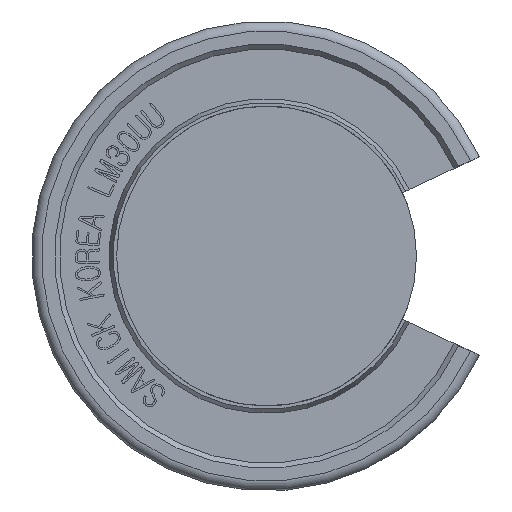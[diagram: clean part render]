
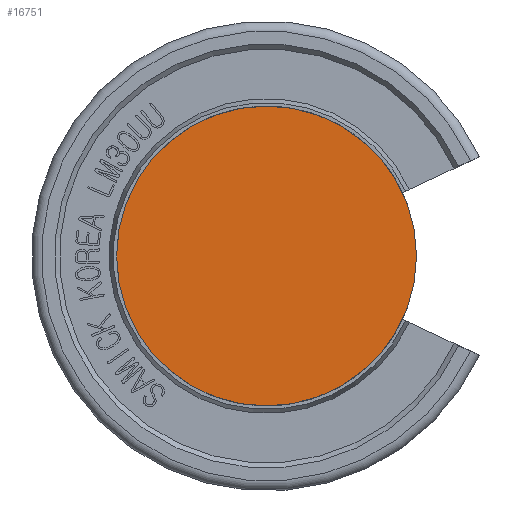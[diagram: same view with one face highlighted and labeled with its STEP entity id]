
A CAD part, front view. The second image highlights one B-rep face of the part: STEP entity #16751.
In plain terms, the highlighted planar face has unit normal (0, -1, 0).
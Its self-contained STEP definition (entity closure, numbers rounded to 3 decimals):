
#53=CIRCLE('',#17032,15.);
#319=PLANE('',#17034);
#1166=FACE_OUTER_BOUND('',#2062,.T.);
#2062=EDGE_LOOP('',(#14439));
#7225=VERTEX_POINT('',#29149);
#9637=EDGE_CURVE('',#7225,#7225,#53,.T.);
#14439=ORIENTED_EDGE('',*,*,#9637,.F.);
#16751=ADVANCED_FACE('',(#1166),#319,.T.);
#17032=AXIS2_PLACEMENT_3D('',#29151,#18705,#18706);
#17034=AXIS2_PLACEMENT_3D('',#29153,#18709,#18710);
#18705=DIRECTION('center_axis',(0.,1.,0.));
#18706=DIRECTION('ref_axis',(1.,0.,0.));
#18709=DIRECTION('center_axis',(0.,-1.,0.));
#18710=DIRECTION('ref_axis',(0.,0.,-1.));
#29149=CARTESIAN_POINT('',(-15.,-59.,0.));
#29151=CARTESIAN_POINT('Origin',(0.,-59.,0.));
#29153=CARTESIAN_POINT('Origin',(0.,-59.,0.));
